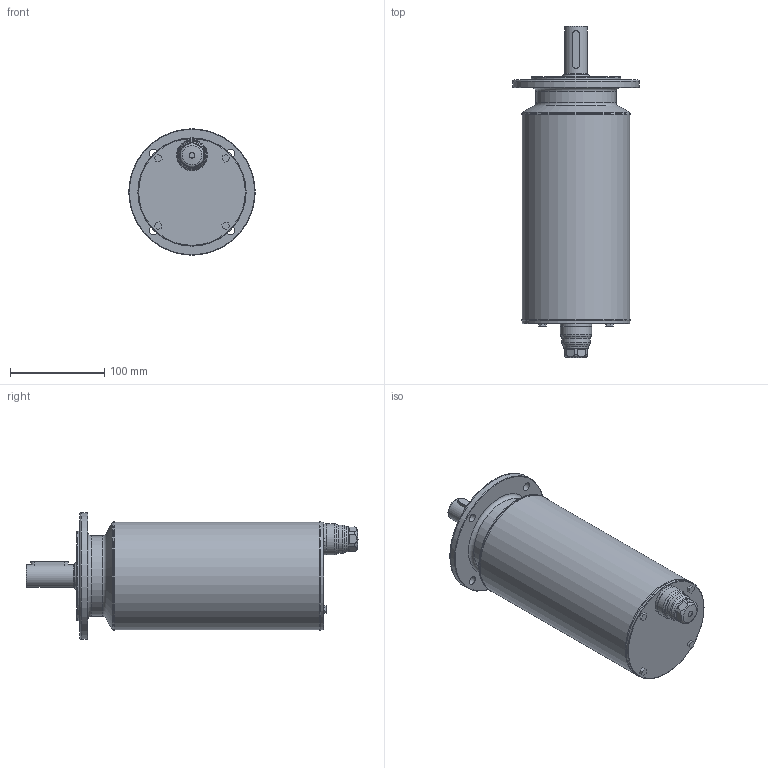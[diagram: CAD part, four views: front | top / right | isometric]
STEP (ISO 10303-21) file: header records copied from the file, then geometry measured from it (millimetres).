
FILE_DESCRIPTION((''),'2;1');
FILE_NAME('C:\Autodesk Vault\AUTODESK_VAULT\CAD\000-FERTIG Motors\EM-Motoren\EM100\_Gesamtbaugruppen\Step\HD\10.12.2012\AM8853-xx11-xxx_14.02.2013.stp','2013-02-14T10:12:24',('kathrinV'),(''),'Autodesk Inventor 2013','Autodesk Inventor 2013','');
FILE_SCHEMA(('AUTOMOTIVE_DESIGN { 1 0 10303 214 1 1 1 1 }'));
Length unit declared in the file: millimetre
Products named in the file (5): EM100-HD-VM; EM100-HD-VM-00; EM100-LB1-EKx-HD-VM; M20-HD-VM; DIN 6885-A8x7x40
Assembly tree (4 placements, depth 3):
  EM100-HD-VM
    EM100-HD-VM-00
      EM100-LB1-EKx-HD-VM
      M20-HD-VM
    DIN 6885-A8x7x40
Bounding box: 134.09 x 352.03 x 134.09 mm (x, y, z)
Volume: 2651878.3 mm3; surface area: 137421.8 mm2
Topology: 3 solids, 3 shells, 112 faces, 262 edges, 166 vertices
Faces by surface type: plane 54, cylinder 31, torus 17, cone 10
Full cylindrical faces by diameter (mm): 6 x1, 9 x4, 20 x1, 24 x1, 25 x1, 30 x1, 33 x2, 85 x1, 95 x1, 114.1 x1, 114.3 x2, 134 x1
Entity records: 3314 total; most frequent: CARTESIAN_POINT 785, DIRECTION 500, ORIENTED_EDGE 422, EDGE_CURVE 211, AXIS2_PLACEMENT_3D 198, EDGE_LOOP 174, VERTEX_POINT 159, FACE_OUTER_BOUND 112
